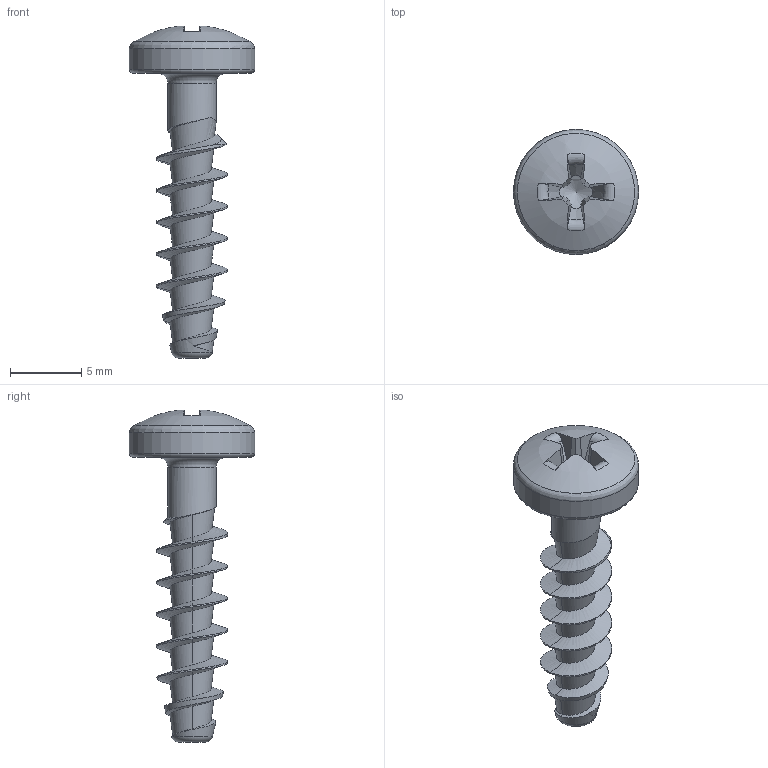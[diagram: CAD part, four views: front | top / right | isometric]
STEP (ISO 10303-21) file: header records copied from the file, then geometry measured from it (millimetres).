
FILE_DESCRIPTION(/* description */ (''),/* implementation_level */ '2;1');
FILE_NAME(/* name */ 'KN1032-Neu-STS-50x20-H2.step',/* time_stamp */ '2018-08-15T15:49:08+02:00',/* author */ (''),/* organization */ (''),/* preprocessor_version */ 'ST-DEVELOPER v16',/* originating_system */ 'SIEMENS PLM Software NX 10.0',/* authorisation */ '');
FILE_SCHEMA (('AUTOMOTIVE_DESIGN { 1 0 10303 214 3 1 1 1 }'));
Length unit declared in the file: millimetre
Products named in the file (1): KN1032-STS-50x20-H2
Bounding box: 8.8 x 8.8 x 23.34 mm (x, y, z)
Volume: 322 mm3; surface area: 515.2 mm2
Topology: 1 solids, 1 shells, 62 faces, 162 edges, 102 vertices
Faces by surface type: bspline 24, plane 18, torus 8, cone 7, cylinder 4, sphere 1
Full cylindrical faces by diameter (mm): 3.39 x1, 8.8 x1
Entity records: 3335 total; most frequent: CARTESIAN_POINT 2068, ORIENTED_EDGE 292, DIRECTION 187, EDGE_CURVE 146, VERTEX_POINT 96, AXIS2_PLACEMENT_3D 77, B_SPLINE_CURVE_WITH_KNOTS 74, EDGE_LOOP 69
